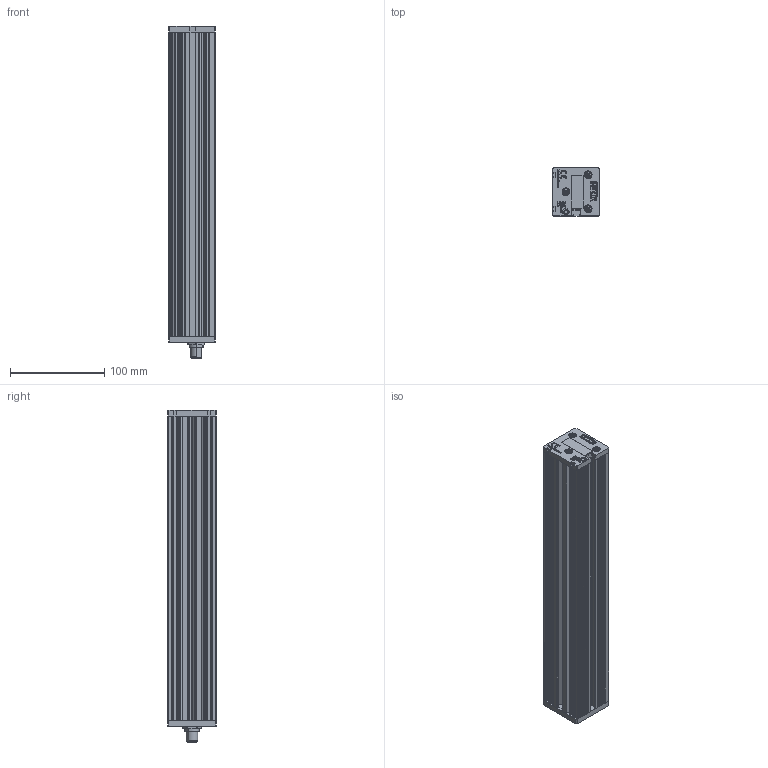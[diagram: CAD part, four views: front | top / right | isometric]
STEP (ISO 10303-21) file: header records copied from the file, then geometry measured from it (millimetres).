
FILE_DESCRIPTION (( 'STEP AP203' ), '1' );
FILE_NAME ('008847A.STEP', '2018-10-15T10:22:11', ( '' ), ( '' ), 'SwSTEP 2.0', 'SolidWorks 2018', '' );
FILE_SCHEMA (( 'CONFIG_CONTROL_DESIGN' ));
Products named in the file (2): 008847A
Bounding box: 49 x 51 x 352.2 mm (x, y, z)
Volume: 245225.3 mm3; surface area: 249432.8 mm2
Topology: 20 solids, 20 shells, 2671 faces, 7299 edges, 4852 vertices
Faces by surface type: plane 1602, bspline 557, cylinder 374, cone 137, torus 1
Full cylindrical faces by diameter (mm): 0.77 x4, 0.957 x2, 0.97 x4, 1 x4, 1.05 x4, 4.3 x1, 7 x6, 7.7 x1, 8.3 x1, 10.4 x1, 11 x1, 13 x1, 13.4 x1, 16 x1
Entity records: 124637 total; most frequent: CARTESIAN_POINT 61023, ORIENTED_EDGE 14340, DIRECTION 10941, EDGE_CURVE 7170, VECTOR 4925, LINE 4925, VERTEX_POINT 4796, AXIS2_PLACEMENT_3D 3008
